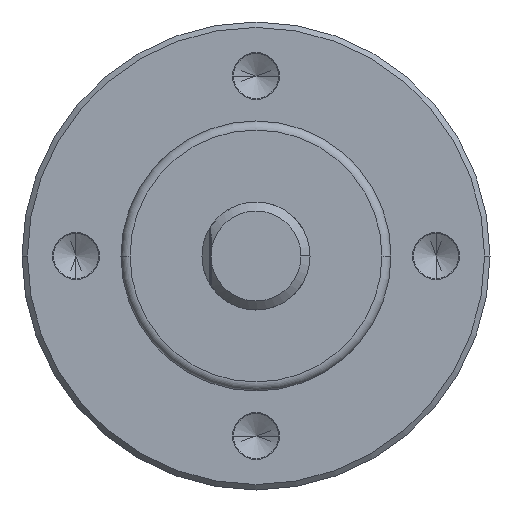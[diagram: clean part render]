
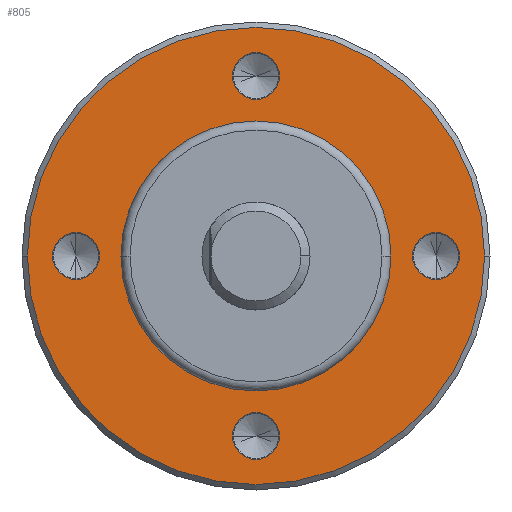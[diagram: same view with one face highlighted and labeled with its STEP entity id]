
A CAD part, left-side view. The second image highlights one B-rep face of the part: STEP entity #805.
In plain terms, the highlighted planar face has unit normal (-1, 0, 0).
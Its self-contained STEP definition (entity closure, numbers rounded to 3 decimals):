
#92=CARTESIAN_POINT('',(0.,0.,0.));
#93=DIRECTION('',(1.,0.,0.));
#94=DIRECTION('',(0.,1.,0.));
#95=AXIS2_PLACEMENT_3D('',#92,#93,#94);
#106=CARTESIAN_POINT('',(0.,0.,0.));
#107=DIRECTION('',(-1.,0.,0.));
#108=DIRECTION('',(0.,1.,0.));
#109=AXIS2_PLACEMENT_3D('',#106,#107,#108);
#115=CARTESIAN_POINT('',(0.,-10.,0.));
#116=DIRECTION('',(-1.,0.,0.));
#117=DIRECTION('',(0.,0.,-1.));
#118=AXIS2_PLACEMENT_3D('',#115,#116,#117);
#120=CARTESIAN_POINT('',(0.,-10.,0.));
#121=DIRECTION('',(-1.,0.,0.));
#122=DIRECTION('',(0.,0.,1.));
#123=AXIS2_PLACEMENT_3D('',#120,#121,#122);
#125=CARTESIAN_POINT('',(0.,0.,10.));
#126=DIRECTION('',(-1.,0.,0.));
#127=DIRECTION('',(0.,-1.,0.));
#128=AXIS2_PLACEMENT_3D('',#125,#126,#127);
#130=CARTESIAN_POINT('',(0.,0.,10.));
#131=DIRECTION('',(-1.,0.,0.));
#132=DIRECTION('',(0.,1.,0.));
#133=AXIS2_PLACEMENT_3D('',#130,#131,#132);
#135=CARTESIAN_POINT('',(0.,10.,0.));
#136=DIRECTION('',(-1.,0.,0.));
#137=DIRECTION('',(0.,0.,1.));
#138=AXIS2_PLACEMENT_3D('',#135,#136,#137);
#140=CARTESIAN_POINT('',(0.,10.,0.));
#141=DIRECTION('',(-1.,0.,0.));
#142=DIRECTION('',(0.,0.,-1.));
#143=AXIS2_PLACEMENT_3D('',#140,#141,#142);
#145=CARTESIAN_POINT('',(0.,0.,-10.));
#146=DIRECTION('',(-1.,0.,0.));
#147=DIRECTION('',(0.,1.,0.));
#148=AXIS2_PLACEMENT_3D('',#145,#146,#147);
#150=CARTESIAN_POINT('',(0.,0.,-10.));
#151=DIRECTION('',(-1.,0.,0.));
#152=DIRECTION('',(0.,-1.,0.));
#153=AXIS2_PLACEMENT_3D('',#150,#151,#152);
#155=CARTESIAN_POINT('',(0.,0.,
0.));
#156=DIRECTION('',(-1.,0.,0.));
#157=DIRECTION('',(0.,-1.,0.));
#158=AXIS2_PLACEMENT_3D('',#155,#156,#157);
#160=CARTESIAN_POINT('',(0.,0.,
0.));
#161=DIRECTION('',(-1.,0.,0.));
#162=DIRECTION('',(0.,1.,0.));
#163=AXIS2_PLACEMENT_3D('',#160,#161,#162);
#575=CARTESIAN_POINT('',(0.,7.5,0.));
#576=CARTESIAN_POINT('',(0.,-7.5,0.));
#577=VERTEX_POINT('',#575);
#578=VERTEX_POINT('',#576);
#592=CARTESIAN_POINT('',(0.,-12.7,
0.));
#593=CARTESIAN_POINT('',(0.,12.7,0.));
#594=VERTEX_POINT('',#592);
#595=VERTEX_POINT('',#593);
#612=CARTESIAN_POINT('',(0.,1.3,-10.));
#613=CARTESIAN_POINT('',(0.,-1.3,-10.));
#614=VERTEX_POINT('',#612);
#615=VERTEX_POINT('',#613);
#624=CARTESIAN_POINT('',(0.,10.,1.3));
#625=CARTESIAN_POINT('',(0.,10.,-1.3));
#626=VERTEX_POINT('',#624);
#627=VERTEX_POINT('',#625);
#636=CARTESIAN_POINT('',(0.,-1.3,10.));
#637=CARTESIAN_POINT('',(0.,1.3,10.));
#638=VERTEX_POINT('',#636);
#639=VERTEX_POINT('',#637);
#648=CARTESIAN_POINT('',(0.,-10.,-1.3));
#649=CARTESIAN_POINT('',(0.,-10.,1.3));
#650=VERTEX_POINT('',#648);
#651=VERTEX_POINT('',#649);
#766=CARTESIAN_POINT('',(0.,0.,0.));
#767=DIRECTION('',(1.,0.,0.));
#768=DIRECTION('',(0.,-1.,0.));
#769=AXIS2_PLACEMENT_3D('',#766,#767,#768);
#770=PLANE('',#769);
#772=ORIENTED_EDGE('',*,*,#771,.F.);
#774=ORIENTED_EDGE('',*,*,#773,.F.);
#775=EDGE_LOOP('',(#772,#774));
#776=FACE_OUTER_BOUND('',#775,.F.);
#778=ORIENTED_EDGE('',*,*,#777,.T.);
#780=ORIENTED_EDGE('',*,*,#779,.T.);
#781=EDGE_LOOP('',(#778,#780));
#782=FACE_BOUND('',#781,.F.);
#784=ORIENTED_EDGE('',*,*,#783,.T.);
#786=ORIENTED_EDGE('',*,*,#785,.T.);
#787=EDGE_LOOP('',(#784,#786));
#788=FACE_BOUND('',#787,.F.);
#790=ORIENTED_EDGE('',*,*,#789,.T.);
#792=ORIENTED_EDGE('',*,*,#791,.T.);
#793=EDGE_LOOP('',(#790,#792));
#794=FACE_BOUND('',#793,.F.);
#796=ORIENTED_EDGE('',*,*,#795,.T.);
#798=ORIENTED_EDGE('',*,*,#797,.T.);
#799=EDGE_LOOP('',(#796,#798));
#800=FACE_BOUND('',#799,.F.);
#801=ORIENTED_EDGE('',*,*,#746,.F.);
#802=ORIENTED_EDGE('',*,*,#760,.T.);
#803=EDGE_LOOP('',(#801,#802));
#804=FACE_BOUND('',#803,.F.);
#805=ADVANCED_FACE('',(#776,#782,#788,#794,#800,#804),#770,.F.);
#96=CIRCLE('',#95,7.5);
#110=CIRCLE('',#109,7.5);
#119=CIRCLE('',#118,1.3);
#124=CIRCLE('',#123,1.3);
#129=CIRCLE('',#128,1.3);
#134=CIRCLE('',#133,1.3);
#139=CIRCLE('',#138,1.3);
#144=CIRCLE('',#143,1.3);
#149=CIRCLE('',#148,1.3);
#154=CIRCLE('',#153,1.3);
#159=CIRCLE('',#158,12.7);
#164=CIRCLE('',#163,12.7);
#746=EDGE_CURVE('',#577,#578,#96,.T.);
#760=EDGE_CURVE('',#577,#578,#110,.T.);
#771=EDGE_CURVE('',#594,#595,#159,.T.);
#773=EDGE_CURVE('',#595,#594,#164,.T.);
#777=EDGE_CURVE('',#638,#639,#129,.T.);
#779=EDGE_CURVE('',#639,#638,#134,.T.);
#783=EDGE_CURVE('',#626,#627,#139,.T.);
#785=EDGE_CURVE('',#627,#626,#144,.T.);
#789=EDGE_CURVE('',#614,#615,#149,.T.);
#791=EDGE_CURVE('',#615,#614,#154,.T.);
#795=EDGE_CURVE('',#650,#651,#119,.T.);
#797=EDGE_CURVE('',#651,#650,#124,.T.);
